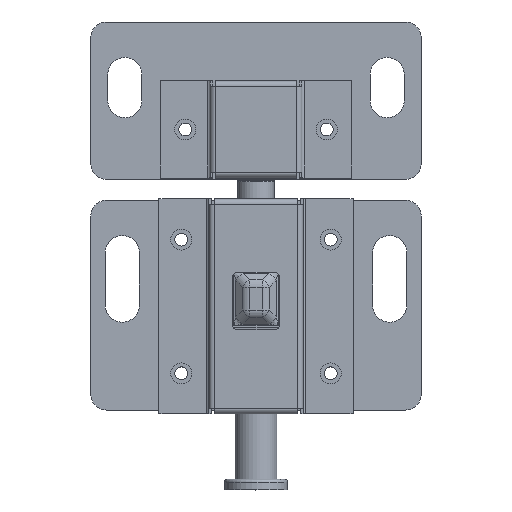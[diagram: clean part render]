
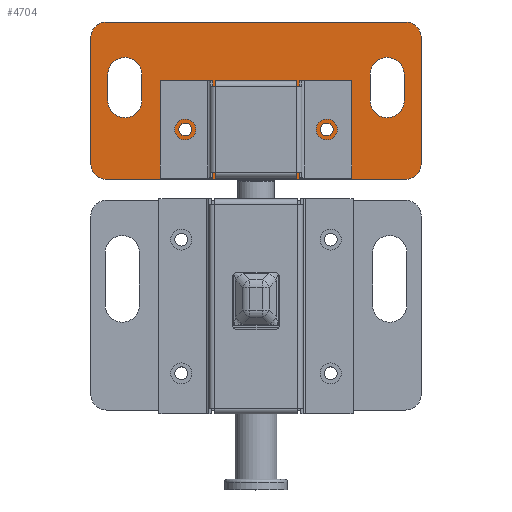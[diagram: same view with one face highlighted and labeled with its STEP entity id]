
A CAD part, top view. The second image highlights one B-rep face of the part: STEP entity #4704.
In plain terms, the highlighted planar face has unit normal (0, 0, 1).
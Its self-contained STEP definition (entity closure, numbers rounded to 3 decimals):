
#163=PLANE('',#5040);
#317=LINE('',#7143,#715);
#320=LINE('',#7152,#718);
#325=LINE('',#7167,#723);
#328=LINE('',#7176,#726);
#331=LINE('',#7184,#729);
#335=LINE('',#7196,#733);
#339=LINE('',#7208,#737);
#343=LINE('',#7220,#741);
#715=VECTOR('',#5600,5.);
#718=VECTOR('',#5611,5.);
#723=VECTOR('',#5624,5.);
#726=VECTOR('',#5635,5.);
#729=VECTOR('',#5640,57.);
#733=VECTOR('',#5652,24.);
#737=VECTOR('',#5664,57.);
#741=VECTOR('',#5676,24.);
#1111=FACE_BOUND('',#1515,.T.);
#1112=FACE_BOUND('',#1516,.T.);
#1113=FACE_BOUND('',#1517,.T.);
#1114=FACE_BOUND('',#1518,.T.);
#1205=FACE_OUTER_BOUND('',#1514,.T.);
#1514=EDGE_LOOP('',(#3280,#3281,#3282,#3283,#3284,#3285,#3286,#3287));
#1515=EDGE_LOOP('',(#3288));
#1516=EDGE_LOOP('',(#3289));
#1517=EDGE_LOOP('',(#3290,#3291,#3292,#3293));
#1518=EDGE_LOOP('',(#3294,#3295,#3296,#3297));
#1880=CIRCLE('',#5004,1.23);
#1882=CIRCLE('',#5007,1.23);
#1884=CIRCLE('',#5010,3.25);
#1886=CIRCLE('',#5014,3.25);
#1888=CIRCLE('',#5018,3.25);
#1890=CIRCLE('',#5022,3.25);
#1892=CIRCLE('',#5027,3.);
#1894=CIRCLE('',#5031,3.);
#1896=CIRCLE('',#5035,3.);
#1898=CIRCLE('',#5039,3.);
#2116=VERTEX_POINT('',#7122);
#2118=VERTEX_POINT('',#7127);
#2121=VERTEX_POINT('',#7133);
#2122=VERTEX_POINT('',#7135);
#2124=VERTEX_POINT('',#7141);
#2126=VERTEX_POINT('',#7147);
#2129=VERTEX_POINT('',#7157);
#2130=VERTEX_POINT('',#7159);
#2132=VERTEX_POINT('',#7165);
#2134=VERTEX_POINT('',#7171);
#2137=VERTEX_POINT('',#7181);
#2138=VERTEX_POINT('',#7183);
#2140=VERTEX_POINT('',#7189);
#2142=VERTEX_POINT('',#7195);
#2144=VERTEX_POINT('',#7201);
#2146=VERTEX_POINT('',#7207);
#2148=VERTEX_POINT('',#7213);
#2150=VERTEX_POINT('',#7219);
#2536=EDGE_CURVE('',#2116,#2116,#1880,.T.);
#2538=EDGE_CURVE('',#2118,#2118,#1882,.T.);
#2541=EDGE_CURVE('',#2122,#2121,#1884,.T.);
#2545=EDGE_CURVE('',#2121,#2124,#317,.T.);
#2548=EDGE_CURVE('',#2124,#2126,#1886,.T.);
#2550=EDGE_CURVE('',#2126,#2122,#320,.T.);
#2553=EDGE_CURVE('',#2130,#2129,#1888,.T.);
#2557=EDGE_CURVE('',#2129,#2132,#325,.T.);
#2560=EDGE_CURVE('',#2132,#2134,#1890,.T.);
#2562=EDGE_CURVE('',#2134,#2130,#328,.T.);
#2565=EDGE_CURVE('',#2138,#2137,#331,.T.);
#2568=EDGE_CURVE('',#2140,#2138,#1892,.T.);
#2571=EDGE_CURVE('',#2142,#2140,#335,.T.);
#2574=EDGE_CURVE('',#2144,#2142,#1894,.T.);
#2577=EDGE_CURVE('',#2146,#2144,#339,.T.);
#2580=EDGE_CURVE('',#2148,#2146,#1896,.T.);
#2583=EDGE_CURVE('',#2150,#2148,#343,.T.);
#2586=EDGE_CURVE('',#2137,#2150,#1898,.T.);
#3280=ORIENTED_EDGE('',*,*,#2565,.T.);
#3281=ORIENTED_EDGE('',*,*,#2586,.T.);
#3282=ORIENTED_EDGE('',*,*,#2583,.T.);
#3283=ORIENTED_EDGE('',*,*,#2580,.T.);
#3284=ORIENTED_EDGE('',*,*,#2577,.T.);
#3285=ORIENTED_EDGE('',*,*,#2574,.T.);
#3286=ORIENTED_EDGE('',*,*,#2571,.T.);
#3287=ORIENTED_EDGE('',*,*,#2568,.T.);
#3288=ORIENTED_EDGE('',*,*,#2536,.T.);
#3289=ORIENTED_EDGE('',*,*,#2538,.T.);
#3290=ORIENTED_EDGE('',*,*,#2541,.T.);
#3291=ORIENTED_EDGE('',*,*,#2545,.T.);
#3292=ORIENTED_EDGE('',*,*,#2548,.T.);
#3293=ORIENTED_EDGE('',*,*,#2550,.T.);
#3294=ORIENTED_EDGE('',*,*,#2553,.T.);
#3295=ORIENTED_EDGE('',*,*,#2557,.T.);
#3296=ORIENTED_EDGE('',*,*,#2560,.T.);
#3297=ORIENTED_EDGE('',*,*,#2562,.T.);
#4704=ADVANCED_FACE('',(#1205,#1111,#1112,#1113,#1114),#163,.T.);
#5004=AXIS2_PLACEMENT_3D('',#7123,#5580,#5581);
#5007=AXIS2_PLACEMENT_3D('',#7128,#5586,#5587);
#5010=AXIS2_PLACEMENT_3D('',#7136,#5593,#5594);
#5014=AXIS2_PLACEMENT_3D('',#7149,#5606,#5607);
#5018=AXIS2_PLACEMENT_3D('',#7160,#5617,#5618);
#5022=AXIS2_PLACEMENT_3D('',#7173,#5630,#5631);
#5027=AXIS2_PLACEMENT_3D('',#7190,#5646,#5647);
#5031=AXIS2_PLACEMENT_3D('',#7202,#5658,#5659);
#5035=AXIS2_PLACEMENT_3D('',#7214,#5670,#5671);
#5039=AXIS2_PLACEMENT_3D('',#7224,#5682,#5683);
#5040=AXIS2_PLACEMENT_3D('',#7225,#5684,#5685);
#5580=DIRECTION('center_axis',(0.,0.,-1.));
#5581=DIRECTION('ref_axis',(1.,0.,0.));
#5586=DIRECTION('center_axis',(0.,0.,-1.));
#5587=DIRECTION('ref_axis',(1.,0.,0.));
#5593=DIRECTION('center_axis',(0.,0.,-1.));
#5594=DIRECTION('ref_axis',(-1.,0.,0.));
#5600=DIRECTION('',(0.,-1.,0.));
#5606=DIRECTION('center_axis',(0.,0.,-1.));
#5607=DIRECTION('ref_axis',(1.,0.,0.));
#5611=DIRECTION('',(0.,1.,0.));
#5617=DIRECTION('center_axis',(0.,0.,-1.));
#5618=DIRECTION('ref_axis',(-1.,0.,0.));
#5624=DIRECTION('',(0.,-1.,0.));
#5630=DIRECTION('center_axis',(0.,0.,-1.));
#5631=DIRECTION('ref_axis',(1.,0.,0.));
#5635=DIRECTION('',(0.,1.,0.));
#5640=DIRECTION('',(1.,0.,0.));
#5646=DIRECTION('center_axis',(0.,0.,1.));
#5647=DIRECTION('ref_axis',(-1.,0.,0.));
#5652=DIRECTION('',(0.,-1.,0.));
#5658=DIRECTION('center_axis',(0.,0.,1.));
#5659=DIRECTION('ref_axis',(0.,1.,0.));
#5664=DIRECTION('',(-1.,0.,0.));
#5670=DIRECTION('center_axis',(0.,0.,1.));
#5671=DIRECTION('ref_axis',(1.,0.,0.));
#5676=DIRECTION('',(0.,1.,0.));
#5682=DIRECTION('center_axis',(0.,0.,1.));
#5683=DIRECTION('ref_axis',(0.,-1.,0.));
#5684=DIRECTION('center_axis',(0.,0.,1.));
#5685=DIRECTION('ref_axis',(1.,0.,0.));
#7122=CARTESIAN_POINT('',(46.452,9.722,3.));
#7123=CARTESIAN_POINT('Origin',(45.222,9.722,3.));
#7127=CARTESIAN_POINT('',(19.452,9.722,3.));
#7128=CARTESIAN_POINT('Origin',(18.222,9.722,3.));
#7133=CARTESIAN_POINT('',(59.972,20.222,3.));
#7135=CARTESIAN_POINT('',(53.472,20.222,3.));
#7136=CARTESIAN_POINT('Origin',(56.722,20.222,3.));
#7141=CARTESIAN_POINT('',(59.972,15.222,3.));
#7143=CARTESIAN_POINT('',(59.972,15.222,3.));
#7147=CARTESIAN_POINT('',(53.472,15.222,3.));
#7149=CARTESIAN_POINT('Origin',(56.722,15.222,3.));
#7152=CARTESIAN_POINT('',(53.472,17.722,3.));
#7157=CARTESIAN_POINT('',(9.972,20.222,3.));
#7159=CARTESIAN_POINT('',(3.472,20.222,3.));
#7160=CARTESIAN_POINT('Origin',(6.722,20.222,3.));
#7165=CARTESIAN_POINT('',(9.972,15.222,3.));
#7167=CARTESIAN_POINT('',(9.972,15.222,3.));
#7171=CARTESIAN_POINT('',(3.472,15.222,3.));
#7173=CARTESIAN_POINT('Origin',(6.722,15.222,3.));
#7176=CARTESIAN_POINT('',(3.472,17.722,3.));
#7181=CARTESIAN_POINT('',(60.222,0.222,3.));
#7183=CARTESIAN_POINT('',(3.222,0.222,3.));
#7184=CARTESIAN_POINT('',(3.222,0.222,3.));
#7189=CARTESIAN_POINT('',(0.222,3.222,3.));
#7190=CARTESIAN_POINT('Origin',(3.222,3.222,3.));
#7195=CARTESIAN_POINT('',(0.222,27.222,3.));
#7196=CARTESIAN_POINT('',(0.222,27.222,3.));
#7201=CARTESIAN_POINT('',(3.222,30.222,3.));
#7202=CARTESIAN_POINT('Origin',(3.222,27.222,3.));
#7207=CARTESIAN_POINT('',(60.222,30.222,3.));
#7208=CARTESIAN_POINT('',(60.222,30.222,3.));
#7213=CARTESIAN_POINT('',(63.222,27.222,3.));
#7214=CARTESIAN_POINT('Origin',(60.222,27.222,3.));
#7219=CARTESIAN_POINT('',(63.222,3.222,3.));
#7220=CARTESIAN_POINT('',(63.222,3.222,3.));
#7224=CARTESIAN_POINT('Origin',(60.222,3.222,3.));
#7225=CARTESIAN_POINT('Origin',(31.722,15.222,3.));
